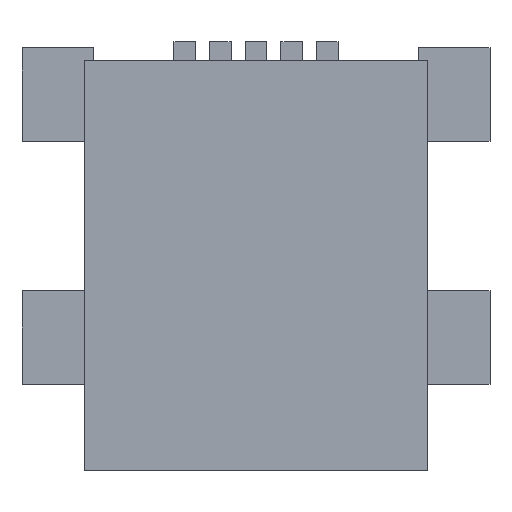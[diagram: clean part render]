
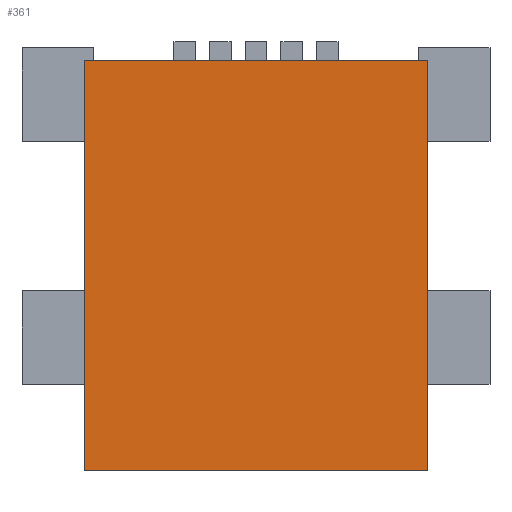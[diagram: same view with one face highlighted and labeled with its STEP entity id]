
A CAD part, top view. The second image highlights one B-rep face of the part: STEP entity #361.
In plain terms, the highlighted planar face has unit normal (0, 0, 1).
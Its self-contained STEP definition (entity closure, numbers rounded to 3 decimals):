
#47 = VERTEX_POINT('',#48);
#48 = CARTESIAN_POINT('',(-3.85,4.6,4.1));
#55 = PLANE('',#56);
#56 = AXIS2_PLACEMENT_3D('',#57,#58,#59);
#57 = CARTESIAN_POINT('',(-3.85,4.6,0.));
#58 = DIRECTION('',(0.,1.,0.));
#59 = DIRECTION('',(1.,0.,0.));
#67 = PLANE('',#68);
#68 = AXIS2_PLACEMENT_3D('',#69,#70,#71);
#69 = CARTESIAN_POINT('',(-3.85,-4.6,0.));
#70 = DIRECTION('',(-1.,0.,0.));
#71 = DIRECTION('',(0.,1.,0.));
#79 = EDGE_CURVE('',#47,#80,#82,.T.);
#80 = VERTEX_POINT('',#81);
#81 = CARTESIAN_POINT('',(3.85,4.6,4.1));
#82 = SURFACE_CURVE('',#83,(#87,#94),.PCURVE_S1.);
#83 = LINE('',#84,#85);
#84 = CARTESIAN_POINT('',(-3.85,4.6,4.1));
#85 = VECTOR('',#86,1.);
#86 = DIRECTION('',(1.,0.,0.));
#87 = PCURVE('',#55,#88);
#88 = DEFINITIONAL_REPRESENTATION('',(#89),#93);
#89 = LINE('',#90,#91);
#90 = CARTESIAN_POINT('',(0.,-4.1));
#91 = VECTOR('',#92,1.);
#92 = DIRECTION('',(1.,0.));
#93 = ( GEOMETRIC_REPRESENTATION_CONTEXT(2) 
PARAMETRIC_REPRESENTATION_CONTEXT() REPRESENTATION_CONTEXT('2D SPACE',''
  ) );
#94 = PCURVE('',#95,#100);
#95 = PLANE('',#96);
#96 = AXIS2_PLACEMENT_3D('',#97,#98,#99);
#97 = CARTESIAN_POINT('',(0.,0.,4.1));
#98 = DIRECTION('',(0.,0.,-1.));
#99 = DIRECTION('',(-1.,0.,0.));
#100 = DEFINITIONAL_REPRESENTATION('',(#101),#105);
#101 = LINE('',#102,#103);
#102 = CARTESIAN_POINT('',(3.85,4.6));
#103 = VECTOR('',#104,1.);
#104 = DIRECTION('',(-1.,0.));
#105 = ( GEOMETRIC_REPRESENTATION_CONTEXT(2) 
PARAMETRIC_REPRESENTATION_CONTEXT() REPRESENTATION_CONTEXT('2D SPACE',''
  ) );
#123 = PLANE('',#124);
#124 = AXIS2_PLACEMENT_3D('',#125,#126,#127);
#125 = CARTESIAN_POINT('',(3.85,4.6,0.));
#126 = DIRECTION('',(1.,0.,-0.));
#127 = DIRECTION('',(0.,-1.,0.));
#165 = EDGE_CURVE('',#80,#166,#168,.T.);
#166 = VERTEX_POINT('',#167);
#167 = CARTESIAN_POINT('',(3.85,-4.6,4.1));
#168 = SURFACE_CURVE('',#169,(#173,#180),.PCURVE_S1.);
#169 = LINE('',#170,#171);
#170 = CARTESIAN_POINT('',(3.85,4.6,4.1));
#171 = VECTOR('',#172,1.);
#172 = DIRECTION('',(0.,-1.,0.));
#173 = PCURVE('',#123,#174);
#174 = DEFINITIONAL_REPRESENTATION('',(#175),#179);
#175 = LINE('',#176,#177);
#176 = CARTESIAN_POINT('',(0.,-4.1));
#177 = VECTOR('',#178,1.);
#178 = DIRECTION('',(1.,0.));
#179 = ( GEOMETRIC_REPRESENTATION_CONTEXT(2) 
PARAMETRIC_REPRESENTATION_CONTEXT() REPRESENTATION_CONTEXT('2D SPACE',''
  ) );
#180 = PCURVE('',#95,#181);
#181 = DEFINITIONAL_REPRESENTATION('',(#182),#186);
#182 = LINE('',#183,#184);
#183 = CARTESIAN_POINT('',(-3.85,4.6));
#184 = VECTOR('',#185,1.);
#185 = DIRECTION('',(0.,-1.));
#186 = ( GEOMETRIC_REPRESENTATION_CONTEXT(2) 
PARAMETRIC_REPRESENTATION_CONTEXT() REPRESENTATION_CONTEXT('2D SPACE',''
  ) );
#204 = PLANE('',#205);
#205 = AXIS2_PLACEMENT_3D('',#206,#207,#208);
#206 = CARTESIAN_POINT('',(3.85,-4.6,0.));
#207 = DIRECTION('',(0.,-1.,0.));
#208 = DIRECTION('',(-1.,0.,0.));
#241 = EDGE_CURVE('',#166,#242,#244,.T.);
#242 = VERTEX_POINT('',#243);
#243 = CARTESIAN_POINT('',(-3.85,-4.6,4.1));
#244 = SURFACE_CURVE('',#245,(#249,#256),.PCURVE_S1.);
#245 = LINE('',#246,#247);
#246 = CARTESIAN_POINT('',(3.85,-4.6,4.1));
#247 = VECTOR('',#248,1.);
#248 = DIRECTION('',(-1.,0.,0.));
#249 = PCURVE('',#204,#250);
#250 = DEFINITIONAL_REPRESENTATION('',(#251),#255);
#251 = LINE('',#252,#253);
#252 = CARTESIAN_POINT('',(0.,-4.1));
#253 = VECTOR('',#254,1.);
#254 = DIRECTION('',(1.,0.));
#255 = ( GEOMETRIC_REPRESENTATION_CONTEXT(2) 
PARAMETRIC_REPRESENTATION_CONTEXT() REPRESENTATION_CONTEXT('2D SPACE',''
  ) );
#256 = PCURVE('',#95,#257);
#257 = DEFINITIONAL_REPRESENTATION('',(#258),#262);
#258 = LINE('',#259,#260);
#259 = CARTESIAN_POINT('',(-3.85,-4.6));
#260 = VECTOR('',#261,1.);
#261 = DIRECTION('',(1.,0.));
#262 = ( GEOMETRIC_REPRESENTATION_CONTEXT(2) 
PARAMETRIC_REPRESENTATION_CONTEXT() REPRESENTATION_CONTEXT('2D SPACE',''
  ) );
#312 = EDGE_CURVE('',#242,#47,#313,.T.);
#313 = SURFACE_CURVE('',#314,(#318,#325),.PCURVE_S1.);
#314 = LINE('',#315,#316);
#315 = CARTESIAN_POINT('',(-3.85,-4.6,4.1));
#316 = VECTOR('',#317,1.);
#317 = DIRECTION('',(0.,1.,0.));
#318 = PCURVE('',#67,#319);
#319 = DEFINITIONAL_REPRESENTATION('',(#320),#324);
#320 = LINE('',#321,#322);
#321 = CARTESIAN_POINT('',(0.,-4.1));
#322 = VECTOR('',#323,1.);
#323 = DIRECTION('',(1.,0.));
#324 = ( GEOMETRIC_REPRESENTATION_CONTEXT(2) 
PARAMETRIC_REPRESENTATION_CONTEXT() REPRESENTATION_CONTEXT('2D SPACE',''
  ) );
#325 = PCURVE('',#95,#326);
#326 = DEFINITIONAL_REPRESENTATION('',(#327),#331);
#327 = LINE('',#328,#329);
#328 = CARTESIAN_POINT('',(3.85,-4.6));
#329 = VECTOR('',#330,1.);
#330 = DIRECTION('',(0.,1.));
#331 = ( GEOMETRIC_REPRESENTATION_CONTEXT(2) 
PARAMETRIC_REPRESENTATION_CONTEXT() REPRESENTATION_CONTEXT('2D SPACE',''
  ) );
#361 = ADVANCED_FACE('',(#362),#95,.F.);
#362 = FACE_BOUND('',#363,.F.);
#363 = EDGE_LOOP('',(#364,#365,#366,#367));
#364 = ORIENTED_EDGE('',*,*,#79,.T.);
#365 = ORIENTED_EDGE('',*,*,#165,.T.);
#366 = ORIENTED_EDGE('',*,*,#241,.T.);
#367 = ORIENTED_EDGE('',*,*,#312,.T.);
